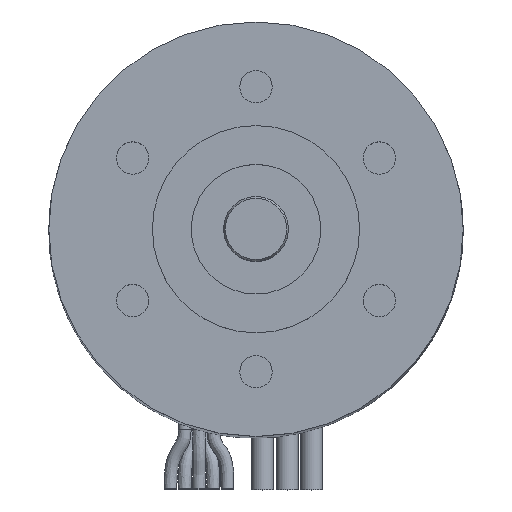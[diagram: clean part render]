
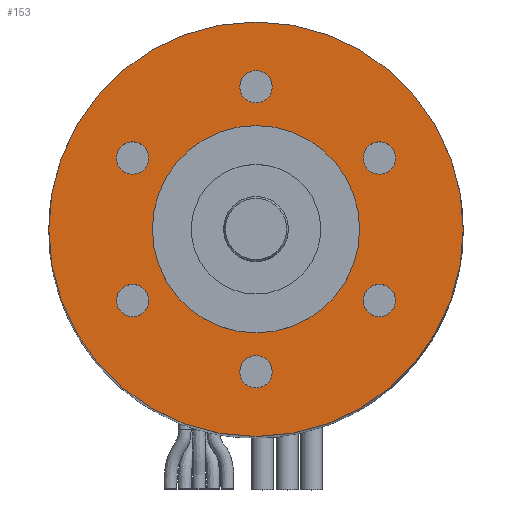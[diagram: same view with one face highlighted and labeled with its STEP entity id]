
A CAD part, top view. The second image highlights one B-rep face of the part: STEP entity #153.
In plain terms, the highlighted planar face has unit normal (0, 0, 1).
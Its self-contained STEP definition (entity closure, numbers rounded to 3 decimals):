
#153=ADVANCED_FACE('',(#372,#373,#374,#375,#376,#377,#378,#379),#237,.T.);
#237=PLANE('',#1310);
#372=FACE_BOUND('',#505,.T.);
#373=FACE_BOUND('',#506,.T.);
#374=FACE_BOUND('',#507,.T.);
#375=FACE_BOUND('',#508,.T.);
#376=FACE_BOUND('',#509,.T.);
#377=FACE_BOUND('',#510,.T.);
#378=FACE_BOUND('',#511,.T.);
#379=FACE_BOUND('',#512,.T.);
#505=EDGE_LOOP('',(#746));
#506=EDGE_LOOP('',(#747));
#507=EDGE_LOOP('',(#748));
#508=EDGE_LOOP('',(#749));
#509=EDGE_LOOP('',(#750));
#510=EDGE_LOOP('',(#751));
#511=EDGE_LOOP('',(#752));
#512=EDGE_LOOP('',(#753));
#746=ORIENTED_EDGE('',*,*,#1107,.T.);
#747=ORIENTED_EDGE('',*,*,#1108,.T.);
#748=ORIENTED_EDGE('',*,*,#1109,.T.);
#749=ORIENTED_EDGE('',*,*,#1110,.T.);
#750=ORIENTED_EDGE('',*,*,#1111,.T.);
#751=ORIENTED_EDGE('',*,*,#1112,.T.);
#752=ORIENTED_EDGE('',*,*,#1113,.F.);
#753=ORIENTED_EDGE('',*,*,#1105,.F.);
#972=VERTEX_POINT('',#2308);
#974=VERTEX_POINT('',#2313);
#975=VERTEX_POINT('',#2315);
#976=VERTEX_POINT('',#2317);
#977=VERTEX_POINT('',#2319);
#978=VERTEX_POINT('',#2321);
#979=VERTEX_POINT('',#2323);
#980=VERTEX_POINT('',#2325);
#1105=EDGE_CURVE('',#972,#972,#1196,.T.);
#1107=EDGE_CURVE('',#974,#974,#1198,.T.);
#1108=EDGE_CURVE('',#975,#975,#1199,.T.);
#1109=EDGE_CURVE('',#976,#976,#1200,.T.);
#1110=EDGE_CURVE('',#977,#977,#1201,.T.);
#1111=EDGE_CURVE('',#978,#978,#1202,.T.);
#1112=EDGE_CURVE('',#979,#979,#1203,.T.);
#1113=EDGE_CURVE('',#980,#980,#1204,.T.);
#1196=CIRCLE('',#1300,16.);
#1198=CIRCLE('',#1303,1.25);
#1199=CIRCLE('',#1304,1.25);
#1200=CIRCLE('',#1305,1.25);
#1201=CIRCLE('',#1306,1.25);
#1202=CIRCLE('',#1307,1.25);
#1203=CIRCLE('',#1308,1.25);
#1204=CIRCLE('',#1309,8.);
#1300=AXIS2_PLACEMENT_3D('',#2307,#1559,#1560);
#1303=AXIS2_PLACEMENT_3D('',#2312,#1565,#1566);
#1304=AXIS2_PLACEMENT_3D('',#2314,#1567,#1568);
#1305=AXIS2_PLACEMENT_3D('',#2316,#1569,#1570);
#1306=AXIS2_PLACEMENT_3D('',#2318,#1571,#1572);
#1307=AXIS2_PLACEMENT_3D('',#2320,#1573,#1574);
#1308=AXIS2_PLACEMENT_3D('',#2322,#1575,#1576);
#1309=AXIS2_PLACEMENT_3D('',#2324,#1577,#1578);
#1310=AXIS2_PLACEMENT_3D('',#2326,#1579,#1580);
#1559=DIRECTION('',(0.,0.,-1.));
#1560=DIRECTION('',(-1.,0.,0.));
#1565=DIRECTION('',(0.,0.,-1.));
#1566=DIRECTION('',(-0.5,0.866,0.));
#1567=DIRECTION('',(0.,0.,-1.));
#1568=DIRECTION('',(0.5,0.866,0.));
#1569=DIRECTION('',(0.,0.,-1.));
#1570=DIRECTION('',(1.,0.,0.));
#1571=DIRECTION('',(0.,0.,-1.));
#1572=DIRECTION('',(0.5,-0.866,0.));
#1573=DIRECTION('',(0.,0.,-1.));
#1574=DIRECTION('',(-0.5,-0.866,0.));
#1575=DIRECTION('',(0.,0.,-1.));
#1576=DIRECTION('',(-1.,0.,0.));
#1577=DIRECTION('',(0.,0.,1.));
#1578=DIRECTION('',(1.,0.,0.));
#1579=DIRECTION('',(0.,0.,1.));
#1580=DIRECTION('',(1.,0.,0.));
#2307=CARTESIAN_POINT('',(0.,0.,0.));
#2308=CARTESIAN_POINT('',(-16.,0.,0.));
#2312=CARTESIAN_POINT('',(9.526,5.5,0.));
#2313=CARTESIAN_POINT('',(8.901,6.583,0.));
#2314=CARTESIAN_POINT('',(9.526,-5.5,0.));
#2315=CARTESIAN_POINT('',(10.151,-4.417,0.));
#2316=CARTESIAN_POINT('',(0.,-11.,0.));
#2317=CARTESIAN_POINT('',(1.25,-11.,0.));
#2318=CARTESIAN_POINT('',(-9.526,-5.5,0.));
#2319=CARTESIAN_POINT('',(-8.901,-6.583,0.));
#2320=CARTESIAN_POINT('',(-9.526,5.5,0.));
#2321=CARTESIAN_POINT('',(-10.151,4.417,0.));
#2322=CARTESIAN_POINT('',(0.,11.,0.));
#2323=CARTESIAN_POINT('',(-1.25,11.,0.));
#2324=CARTESIAN_POINT('',(0.,0.,0.));
#2325=CARTESIAN_POINT('',(8.,0.,0.));
#2326=CARTESIAN_POINT('',(0.,0.,0.));
